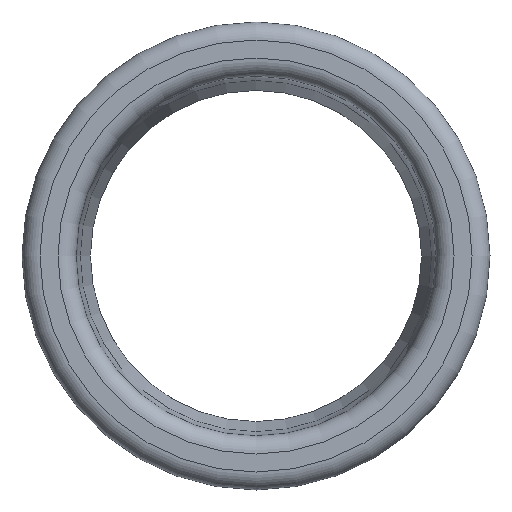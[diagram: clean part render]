
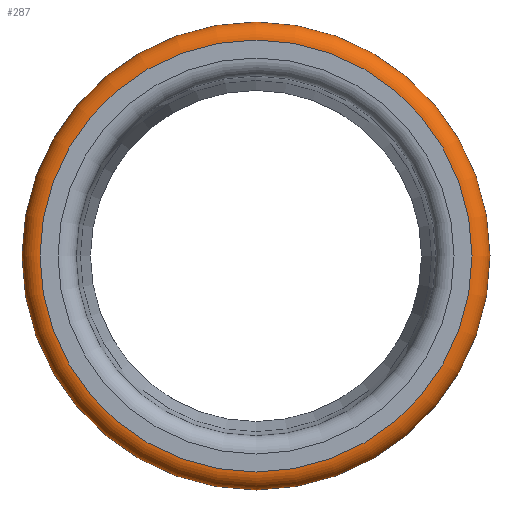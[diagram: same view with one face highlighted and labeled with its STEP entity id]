
A CAD part, left-side view. The second image highlights one B-rep face of the part: STEP entity #287.
In plain terms, the highlighted toroidal (fillet/blend) face has major radius 30 mm and minor radius 2.5 mm.
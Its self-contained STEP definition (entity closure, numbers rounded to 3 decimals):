
#16=TOROIDAL_SURFACE($,#334,30.,2.5);
#52=FACE_BOUND($,#112,.T.);
#70=FACE_OUTER_BOUND($,#111,.T.);
#111=EDGE_LOOP($,(#234));
#112=EDGE_LOOP($,(#235));
#137=CIRCLE($,#333,30.);
#138=CIRCLE($,#335,32.5);
#161=VERTEX_POINT($,#523);
#162=VERTEX_POINT($,#526);
#186=EDGE_CURVE($,#161,#161,#137,.T.);
#187=EDGE_CURVE($,#162,#162,#138,.T.);
#234=ORIENTED_EDGE($,*,*,#186,.T.);
#235=ORIENTED_EDGE($,*,*,#187,.F.);
#287=ADVANCED_FACE($,(#70,#52),#16,.T.);
#333=AXIS2_PLACEMENT_3D($,#524,#421,#422);
#334=AXIS2_PLACEMENT_3D($,#525,#423,#424);
#335=AXIS2_PLACEMENT_3D($,#527,#425,#426);
#421=DIRECTION('center_axis',(1.,0.,0.));
#422=DIRECTION('ref_axis',(0.,0.,-1.));
#423=DIRECTION('center_axis',(1.,0.,0.));
#424=DIRECTION('ref_axis',(0.,0.,-1.));
#425=DIRECTION('center_axis',(1.,0.,0.));
#426=DIRECTION('ref_axis',(0.,0.,-1.));
#523=CARTESIAN_POINT('',(0.,30.,0.));
#524=CARTESIAN_POINT('Origin',(0.,0.,0.));
#525=CARTESIAN_POINT('Origin',(2.5,0.,0.));
#526=CARTESIAN_POINT('',(2.5,32.5,0.));
#527=CARTESIAN_POINT('Origin',(2.5,0.,0.));
